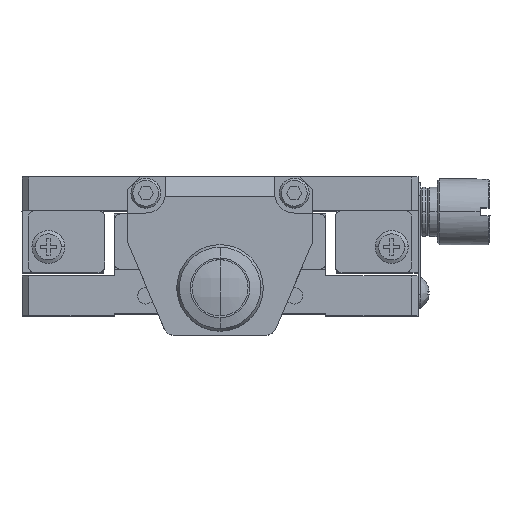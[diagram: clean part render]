
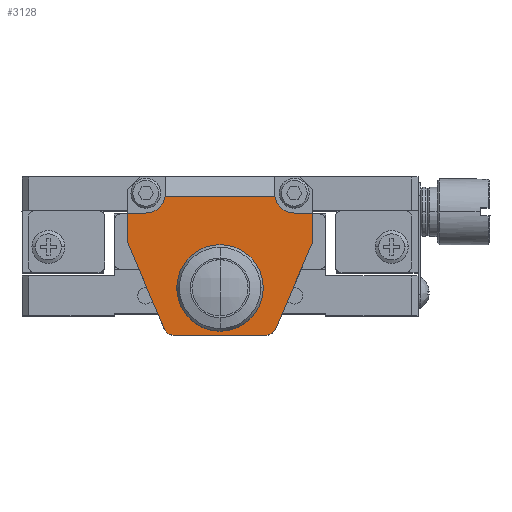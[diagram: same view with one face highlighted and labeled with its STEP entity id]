
A CAD part, top view. The second image highlights one B-rep face of the part: STEP entity #3128.
In plain terms, the highlighted planar face has unit normal (0, 0, 1).
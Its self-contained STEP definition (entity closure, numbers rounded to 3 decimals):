
#1079 = VECTOR ( 'NONE', #21852, 1000. ) ;
#1342 = CARTESIAN_POINT ( 'NONE',  ( 16., 7.5, 19.235 ) ) ;
#1482 = AXIS2_PLACEMENT_3D ( 'NONE', #35502, #13488, #39177 ) ;
#2229 = LINE ( 'NONE', #18157, #1079 ) ;
#2396 = ORIENTED_EDGE ( 'NONE', *, *, #20587, .T. ) ;
#2822 = CARTESIAN_POINT ( 'NONE',  ( 38.277, -2.382, 19.235 ) ) ;
#2958 = ORIENTED_EDGE ( 'NONE', *, *, #27616, .T. ) ;
#3128 = ADVANCED_FACE ( 'NONE', ( #19779, #28428 ), #33377, .T. ) ;
#3971 = ORIENTED_EDGE ( 'NONE', *, *, #13148, .T. ) ;
#4515 = VECTOR ( 'NONE', #26131, 1000. ) ;
#4710 = ORIENTED_EDGE ( 'NONE', *, *, #17545, .T. ) ;
#4766 = CARTESIAN_POINT ( 'NONE',  ( 38.396, -2.119, 19.235 ) ) ;
#5029 = CARTESIAN_POINT ( 'NONE',  ( 16., 11., 19.235 ) ) ;
#5538 = CARTESIAN_POINT ( 'NONE',  ( 22.925, -3., 19.235 ) ) ;
#5684 = LINE ( 'NONE', #31861, #43631 ) ;
#5688 = LINE ( 'NONE', #37314, #4515 ) ;
#6153 = EDGE_CURVE ( 'NONE', #18227, #18254, #9462, .T. ) ;
#6379 = CARTESIAN_POINT ( 'NONE',  ( 41.25, 18.5, 19.235 ) ) ;
#6697 = CARTESIAN_POINT ( 'NONE',  ( 16., 15.5, 19.235 ) ) ;
#7912 = EDGE_CURVE ( 'NONE', #18254, #18227, #16075, .T. ) ;
#7950 = DIRECTION ( 'NONE',  ( 0., 0., -1. ) ) ;
#8097 = CARTESIAN_POINT ( 'NONE',  ( 30., 4.1, 19.235 ) ) ;
#8404 = CARTESIAN_POINT ( 'NONE',  ( 41.25, 15.5, 19.235 ) ) ;
#8743 = DIRECTION ( 'NONE',  ( 0., -1., 0. ) ) ;
#9462 = CIRCLE ( 'NONE', #18853, 4.75 ) ;
#9580 = CARTESIAN_POINT ( 'NONE',  ( 21.604, -2.119, 19.235 ) ) ;
#10038 = DIRECTION ( 'NONE',  ( 0., -1., 0. ) ) ;
#11165 = CARTESIAN_POINT ( 'NONE',  ( 38.396, -2.119, 19.235 ) ) ;
#11765 = DIRECTION ( 'NONE',  ( 1., 0., 0. ) ) ;
#12211 = VERTEX_POINT ( 'NONE', #38933 ) ;
#13002 = DIRECTION ( 'NONE',  ( -1., 0., 0. ) ) ;
#13148 = EDGE_CURVE ( 'NONE', #30810, #24768, #19365, .T. ) ;
#13281 = CARTESIAN_POINT ( 'NONE',  ( 21.72, -2.374, 19.235 ) ) ;
#13488 = DIRECTION ( 'NONE',  ( 0., 0., -1. ) ) ;
#13651 = CARTESIAN_POINT ( 'NONE',  ( 30., 15.5, 19.235 ) ) ;
#13828 = VERTEX_POINT ( 'NONE', #36354 ) ;
#14068 = LINE ( 'NONE', #4766, #32432 ) ;
#14279 = CARTESIAN_POINT ( 'NONE',  ( 38.292, 18., 19.235 ) ) ;
#14654 = VECTOR ( 'NONE', #8743, 1000. ) ;
#14700 = LINE ( 'NONE', #13651, #24509 ) ;
#15056 = ORIENTED_EDGE ( 'NONE', *, *, #37411, .T. ) ;
#15789 = CARTESIAN_POINT ( 'NONE',  ( 44., 15.5, 19.235 ) ) ;
#16075 = CIRCLE ( 'NONE', #31610, 4.75 ) ;
#16277 = VECTOR ( 'NONE', #37463, 1000. ) ;
#16987 = CARTESIAN_POINT ( 'NONE',  ( 22.371, -2.903, 19.235 ) ) ;
#17451 = LINE ( 'NONE', #41178, #16277 ) ;
#17545 = EDGE_CURVE ( 'NONE', #23509, #12211, #20061, .T. ) ;
#18157 = CARTESIAN_POINT ( 'NONE',  ( 30., 15.5, 19.235 ) ) ;
#18227 = VERTEX_POINT ( 'NONE', #28703 ) ;
#18254 = VERTEX_POINT ( 'NONE', #43488 ) ;
#18372 = VERTEX_POINT ( 'NONE', #11165 ) ;
#18392 = VERTEX_POINT ( 'NONE', #37307 ) ;
#18853 = AXIS2_PLACEMENT_3D ( 'NONE', #8097, #33762, #11765 ) ;
#19365 = B_SPLINE_CURVE_WITH_KNOTS ( 'NONE', 3,
 ( #9580, #13281, #38968, #16987, #42662, #20713 ),
 .UNSPECIFIED., .F., .F.,
 ( 4, 2, 4 ),
 ( 0., 0.5, 1. ),
 .UNSPECIFIED. ) ;
#19779 = FACE_BOUND ( 'NONE', #23918, .T. ) ;
#20061 = CIRCLE ( 'NONE', #1482, 3. ) ;
#20419 = EDGE_LOOP ( 'NONE', ( #30990, #3971, #15056, #2958, #45536, #24855, #2396, #37997, #35182, #4710, #29215, #39713 ) ) ;
#20587 = EDGE_CURVE ( 'NONE', #33533, #31959, #2229, .T. ) ;
#20712 = CIRCLE ( 'NONE', #44508, 3. ) ;
#20713 = CARTESIAN_POINT ( 'NONE',  ( 22.925, -3., 19.235 ) ) ;
#21124 = DIRECTION ( 'NONE',  ( 0., 1., 0. ) ) ;
#21852 = DIRECTION ( 'NONE',  ( -1., 0., 0. ) ) ;
#23509 = VERTEX_POINT ( 'NONE', #45360 ) ;
#23527 = ORIENTED_EDGE ( 'NONE', *, *, #6153, .T. ) ;
#23918 = EDGE_LOOP ( 'NONE', ( #23527, #34444 ) ) ;
#24509 = VECTOR ( 'NONE', #35666, 1000. ) ;
#24535 = EDGE_CURVE ( 'NONE', #33610, #30810, #5688, .T. ) ;
#24768 = VERTEX_POINT ( 'NONE', #5538 ) ;
#24855 = ORIENTED_EDGE ( 'NONE', *, *, #30763, .T. ) ;
#24865 = CARTESIAN_POINT ( 'NONE',  ( 38.084, -2.605, 19.235 ) ) ;
#25069 = LINE ( 'NONE', #29226, #33629 ) ;
#26131 = DIRECTION ( 'NONE',  ( 0.393, -0.92, 0. ) ) ;
#27616 = EDGE_CURVE ( 'NONE', #13828, #18372, #33660, .T. ) ;
#28428 = FACE_OUTER_BOUND ( 'NONE', #20419, .T. ) ;
#28545 = CARTESIAN_POINT ( 'NONE',  ( 38.396, -2.119, 19.235 ) ) ;
#28703 = CARTESIAN_POINT ( 'NONE',  ( 34.75, 4.1, 19.235 ) ) ;
#29215 = ORIENTED_EDGE ( 'NONE', *, *, #36406, .T. ) ;
#29226 = CARTESIAN_POINT ( 'NONE',  ( 30., 18., 19.235 ) ) ;
#29945 = CARTESIAN_POINT ( 'NONE',  ( 30., 4.1, 19.235 ) ) ;
#30475 = DIRECTION ( 'NONE',  ( 0.393, 0.92, 0. ) ) ;
#30763 = EDGE_CURVE ( 'NONE', #18392, #33533, #5684, .T. ) ;
#30810 = VERTEX_POINT ( 'NONE', #47142 ) ;
#30990 = ORIENTED_EDGE ( 'NONE', *, *, #24535, .T. ) ;
#31610 = AXIS2_PLACEMENT_3D ( 'NONE', #29945, #7950, #33615 ) ;
#31861 = CARTESIAN_POINT ( 'NONE',  ( 44., 7.5, 19.235 ) ) ;
#31959 = VERTEX_POINT ( 'NONE', #8404 ) ;
#32041 = DIRECTION ( 'NONE',  ( 0., 0., -1. ) ) ;
#32432 = VECTOR ( 'NONE', #30475, 1000. ) ;
#33026 = LINE ( 'NONE', #1342, #14654 ) ;
#33377 = PLANE ( 'NONE',  #41444 ) ;
#33533 = VERTEX_POINT ( 'NONE', #15789 ) ;
#33610 = VERTEX_POINT ( 'NONE', #5029 ) ;
#33615 = DIRECTION ( 'NONE',  ( 1., 0., 0. ) ) ;
#33629 = VECTOR ( 'NONE', #43860, 1000. ) ;
#33660 = B_SPLINE_CURVE_WITH_KNOTS ( 'NONE', 3,
 ( #46695, #42983, #46862, #24865, #2822, #28545 ),
 .UNSPECIFIED., .F., .F.,
 ( 4, 2, 4 ),
 ( 0., 0.5, 1. ),
 .UNSPECIFIED. ) ;
#33762 = DIRECTION ( 'NONE',  ( 0., 0., -1. ) ) ;
#34444 = ORIENTED_EDGE ( 'NONE', *, *, #7912, .T. ) ;
#35040 = CARTESIAN_POINT ( 'NONE',  ( 44.56, 18.42, 19.235 ) ) ;
#35182 = ORIENTED_EDGE ( 'NONE', *, *, #43542, .T. ) ;
#35502 = CARTESIAN_POINT ( 'NONE',  ( 18.75, 18.5, 19.235 ) ) ;
#35666 = DIRECTION ( 'NONE',  ( -1., 0., 0. ) ) ;
#35892 = DIRECTION ( 'NONE',  ( 0., 0., 1. ) ) ;
#36354 = CARTESIAN_POINT ( 'NONE',  ( 37.03, -3., 19.235 ) ) ;
#36406 = EDGE_CURVE ( 'NONE', #12211, #45537, #14700, .T. ) ;
#37307 = CARTESIAN_POINT ( 'NONE',  ( 44., 11., 19.235 ) ) ;
#37314 = CARTESIAN_POINT ( 'NONE',  ( 16., 11., 19.235 ) ) ;
#37411 = EDGE_CURVE ( 'NONE', #24768, #13828, #17451, .T. ) ;
#37463 = DIRECTION ( 'NONE',  ( 1., 0., 0. ) ) ;
#37997 = ORIENTED_EDGE ( 'NONE', *, *, #42008, .T. ) ;
#38933 = CARTESIAN_POINT ( 'NONE',  ( 18.75, 15.5, 19.235 ) ) ;
#38968 = CARTESIAN_POINT ( 'NONE',  ( 21.905, -2.593, 19.235 ) ) ;
#39177 = DIRECTION ( 'NONE',  ( 0., -1., 0. ) ) ;
#39713 = ORIENTED_EDGE ( 'NONE', *, *, #46972, .T. ) ;
#41178 = CARTESIAN_POINT ( 'NONE',  ( 44.56, -3., 19.235 ) ) ;
#41444 = AXIS2_PLACEMENT_3D ( 'NONE', #35040, #35892, #13002 ) ;
#41633 = VERTEX_POINT ( 'NONE', #14279 ) ;
#42008 = EDGE_CURVE ( 'NONE', #31959, #41633, #20712, .T. ) ;
#42662 = CARTESIAN_POINT ( 'NONE',  ( 22.644, -2.991, 19.235 ) ) ;
#42983 = CARTESIAN_POINT ( 'NONE',  ( 37.318, -3., 19.235 ) ) ;
#43488 = CARTESIAN_POINT ( 'NONE',  ( 25.25, 4.1, 19.235 ) ) ;
#43542 = EDGE_CURVE ( 'NONE', #41633, #23509, #25069, .T. ) ;
#43631 = VECTOR ( 'NONE', #21124, 1000. ) ;
#43683 = EDGE_CURVE ( 'NONE', #18372, #18392, #14068, .T. ) ;
#43860 = DIRECTION ( 'NONE',  ( -1., 0., 0. ) ) ;
#44508 = AXIS2_PLACEMENT_3D ( 'NONE', #6379, #32041, #10038 ) ;
#45360 = CARTESIAN_POINT ( 'NONE',  ( 21.708, 18., 19.235 ) ) ;
#45536 = ORIENTED_EDGE ( 'NONE', *, *, #43683, .T. ) ;
#45537 = VERTEX_POINT ( 'NONE', #6697 ) ;
#46695 = CARTESIAN_POINT ( 'NONE',  ( 37.03, -3., 19.235 ) ) ;
#46862 = CARTESIAN_POINT ( 'NONE',  ( 37.601, -2.916, 19.235 ) ) ;
#46972 = EDGE_CURVE ( 'NONE', #45537, #33610, #33026, .T. ) ;
#47142 = CARTESIAN_POINT ( 'NONE',  ( 21.604, -2.119, 19.235 ) ) ;
